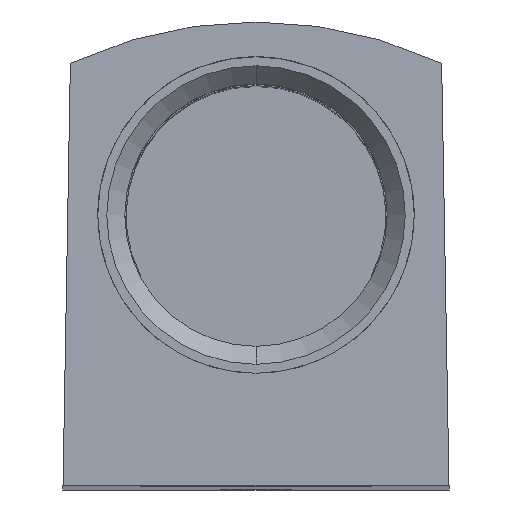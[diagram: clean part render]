
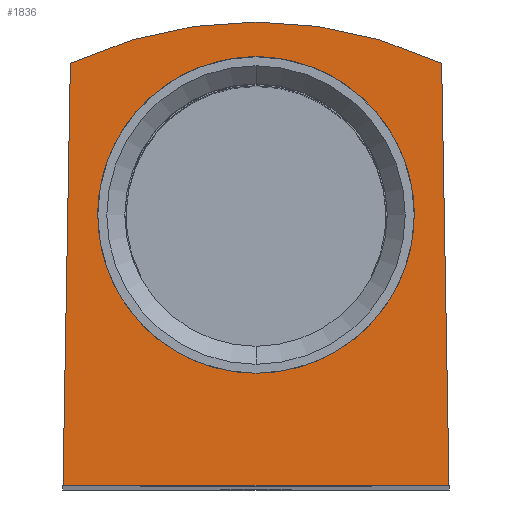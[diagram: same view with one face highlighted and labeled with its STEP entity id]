
A CAD part, top view. The second image highlights one B-rep face of the part: STEP entity #1836.
In plain terms, the highlighted planar face has unit normal (0, 0.018, 1).
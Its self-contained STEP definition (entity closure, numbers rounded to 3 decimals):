
#476=CARTESIAN_POINT('',(0.,4.35,-0.076));
#477=CARTESIAN_POINT('',(-0.725,4.35,-0.076));
#478=CARTESIAN_POINT('',(-2.291,4.613,
-0.081));
#479=CARTESIAN_POINT('',(-4.112,5.787,
-0.101));
#480=CARTESIAN_POINT('',(-5.186,7.115,
-0.124));
#481=CARTESIAN_POINT('',(-5.759,8.228,
-0.144));
#482=CARTESIAN_POINT('',(-6.086,9.389,
-0.164));
#483=CARTESIAN_POINT('',(-6.182,10.5,-0.183));
#484=CARTESIAN_POINT('',(-6.086,11.611,
-0.203));
#485=CARTESIAN_POINT('',(-5.759,12.772,
-0.223));
#486=CARTESIAN_POINT('',(-5.186,13.885,
-0.242));
#487=CARTESIAN_POINT('',(-4.112,15.213,
-0.266));
#488=CARTESIAN_POINT('',(-2.291,16.387,
-0.286));
#489=CARTESIAN_POINT('',(-0.725,16.65,-0.291));
#490=CARTESIAN_POINT('',(0.,16.65,-0.291));
#492=CARTESIAN_POINT('',(0.,4.35,-0.076));
#493=CARTESIAN_POINT('',(0.725,4.35,-0.076));
#494=CARTESIAN_POINT('',(2.291,4.613,-0.081));
#495=CARTESIAN_POINT('',(4.112,5.787,-0.101));
#496=CARTESIAN_POINT('',(5.186,7.115,-0.124));
#497=CARTESIAN_POINT('',(5.759,8.228,-0.144));
#498=CARTESIAN_POINT('',(6.086,9.389,-0.164));
#499=CARTESIAN_POINT('',(6.182,10.5,-0.183));
#500=CARTESIAN_POINT('',(6.086,11.611,-0.203));
#501=CARTESIAN_POINT('',(5.759,12.772,-0.223));
#502=CARTESIAN_POINT('',(5.186,13.885,-0.242));
#503=CARTESIAN_POINT('',(4.112,15.213,-0.266));
#504=CARTESIAN_POINT('',(2.291,16.387,-0.286));
#505=CARTESIAN_POINT('',(0.725,16.65,-0.291));
#506=CARTESIAN_POINT('',(0.,16.65,-0.291));
#513=CARTESIAN_POINT('',(-7.214,16.394,
-0.286));
#514=CARTESIAN_POINT('',(-6.012,16.957,
-0.296));
#515=CARTESIAN_POINT('',(-3.607,17.747,
-0.31));
#516=CARTESIAN_POINT('',(0.,18.126,-0.316));
#517=CARTESIAN_POINT('',(3.607,17.747,-0.31));
#518=CARTESIAN_POINT('',(6.012,16.957,-0.296));
#519=CARTESIAN_POINT('',(7.214,16.394,-0.286));
#521=DIRECTION('',(0.017,-1.,0.017));
#522=VECTOR('',#521,16.399);
#523=CARTESIAN_POINT('',(7.214,16.394,-0.286));
#524=LINE('',#523,#522);
#525=DIRECTION('',(-1.,0.,0.));
#526=VECTOR('',#525,15.);
#527=CARTESIAN_POINT('',(7.5,0.,0.));
#528=LINE('',#527,#526);
#529=DIRECTION('',(-0.017,-1.,0.017));
#530=VECTOR('',#529,16.399);
#531=CARTESIAN_POINT('',(-7.214,16.394,
-0.286));
#532=LINE('',#531,#530);
#1248=CARTESIAN_POINT('',(0.,16.65,-0.291));
#1249=VERTEX_POINT('',#1248);
#1250=CARTESIAN_POINT('',(0.,4.35,-0.076));
#1251=VERTEX_POINT('',#1250);
#1368=CARTESIAN_POINT('',(-7.214,16.394,
-0.286));
#1369=CARTESIAN_POINT('',(-7.5,0.,0.));
#1370=VERTEX_POINT('',#1368);
#1371=VERTEX_POINT('',#1369);
#1372=CARTESIAN_POINT('',(7.214,16.394,
-0.286));
#1373=CARTESIAN_POINT('',(7.5,0.,0.));
#1374=VERTEX_POINT('',#1372);
#1375=VERTEX_POINT('',#1373);
#1819=CARTESIAN_POINT('',(-8.7,0.,0.));
#1820=DIRECTION('',(0.,0.017,1.));
#1821=DIRECTION('',(-1.,0.,0.));
#1822=AXIS2_PLACEMENT_3D('',#1819,#1820,#1821);
#1823=PLANE('',#1822);
#1824=ORIENTED_EDGE('',*,*,#1573,.T.);
#1826=ORIENTED_EDGE('',*,*,#1825,.T.);
#1827=ORIENTED_EDGE('',*,*,#1616,.T.);
#1829=ORIENTED_EDGE('',*,*,#1828,.F.);
#1830=EDGE_LOOP('',(#1824,#1826,#1827,#1829));
#1831=FACE_OUTER_BOUND('',#1830,.F.);
#1832=ORIENTED_EDGE('',*,*,#1801,.F.);
#1833=ORIENTED_EDGE('',*,*,#1812,.T.);
#1834=EDGE_LOOP('',(#1832,#1833));
#1835=FACE_BOUND('',#1834,.F.);
#491=B_SPLINE_CURVE_WITH_KNOTS('',3,(#476,#477,#478,#479,#480,#481,#482,#483,
#484,#485,#486,#487,#488,#489,#490),.UNSPECIFIED.,.F.,.F.,(4,1,1,1,1,1,1,1,1,1,
1,1,4),(0.,0.125,0.25,0.313,0.375,0.438,0.5,0.563,0.625,
0.688,0.75,0.875,1.),.UNSPECIFIED.);
#507=B_SPLINE_CURVE_WITH_KNOTS('',3,(#492,#493,#494,#495,#496,#497,#498,#499,
#500,#501,#502,#503,#504,#505,#506),.UNSPECIFIED.,.F.,.F.,(4,1,1,1,1,1,1,1,1,1,
1,1,4),(0.,0.125,0.25,0.313,0.375,0.438,0.5,0.563,0.625,
0.688,0.75,0.875,1.),.UNSPECIFIED.);
#520=B_SPLINE_CURVE_WITH_KNOTS('',3,(#513,#514,#515,#516,#517,#518,#519),
.UNSPECIFIED.,.F.,.F.,(4,1,1,1,4),(0.,0.25,0.5,0.75,1.),
.UNSPECIFIED.);
#1573=EDGE_CURVE('',#1370,#1374,#520,.T.);
#1616=EDGE_CURVE('',#1375,#1371,#528,.T.);
#1801=EDGE_CURVE('',#1251,#1249,#491,.T.);
#1812=EDGE_CURVE('',#1251,#1249,#507,.T.);
#1825=EDGE_CURVE('',#1374,#1375,#524,.T.);
#1828=EDGE_CURVE('',#1370,#1371,#532,.T.);
#1836=ADVANCED_FACE('',(#1831,#1835),#1823,.T.);
